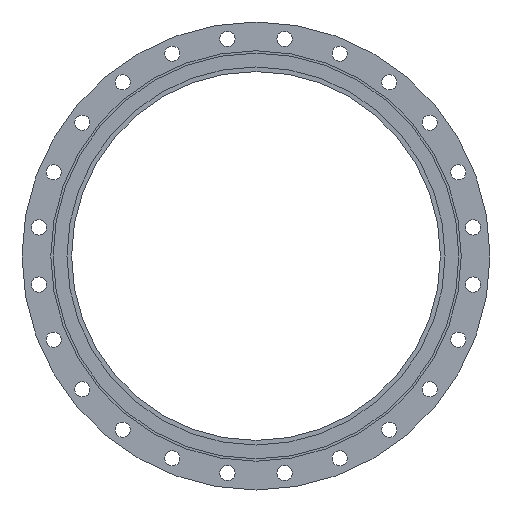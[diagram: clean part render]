
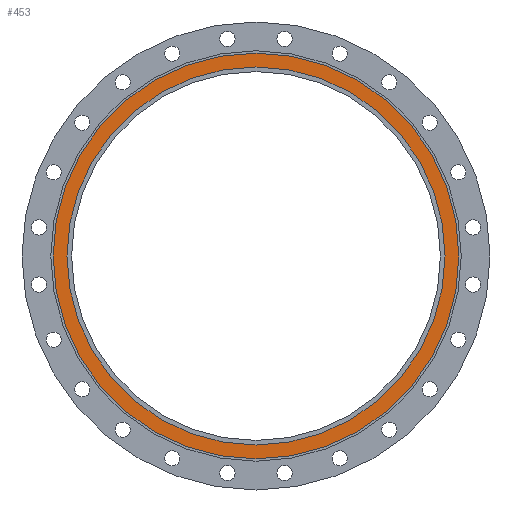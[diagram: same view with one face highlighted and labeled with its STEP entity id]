
A CAD part, left-side view. The second image highlights one B-rep face of the part: STEP entity #453.
In plain terms, the highlighted planar face has unit normal (-1, 0, 0).
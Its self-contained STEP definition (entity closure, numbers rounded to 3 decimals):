
#453=ADVANCED_FACE('',(#8644,#8646),#8648,.T.);
#8644=FACE_BOUND('',#8645,.T.);
#8645=EDGE_LOOP('',(#15764,#15765));
#8646=FACE_BOUND('',#8647,.T.);
#8647=EDGE_LOOP('',(#15766,#15767));
#8648=PLANE('',#8649);
#8649=AXIS2_PLACEMENT_3D('',#8650,#8651,#8652);
#8650=CARTESIAN_POINT('',(-502.001,626.627,0.));
#8651=DIRECTION('',(-1.,0.,0.));
#8652=DIRECTION('',(0.,0.,1.));
#15764=ORIENTED_EDGE('',*,*,#20857,.F.);
#15765=ORIENTED_EDGE('',*,*,#20858,.F.);
#15766=ORIENTED_EDGE('',*,*,#20855,.T.);
#15767=ORIENTED_EDGE('',*,*,#20856,.T.);
#20855=EDGE_CURVE('',#24333,#24334,#24335,.T.);
#20856=EDGE_CURVE('',#24334,#24333,#24336,.T.);
#20857=EDGE_CURVE('',#24337,#24338,#24339,.T.);
#20858=EDGE_CURVE('',#24338,#24337,#24340,.T.);
#24333=VERTEX_POINT('',#32703);
#24334=VERTEX_POINT('',#32704);
#24335=CIRCLE('',#32705,410.);
#24336=CIRCLE('',#32709,410.);
#24337=VERTEX_POINT('',#32713);
#24338=VERTEX_POINT('',#32714);
#24339=CIRCLE('',#32715,440.);
#24340=CIRCLE('',#32719,440.);
#32703=CARTESIAN_POINT('',(-502.001,656.627,0.));
#32704=CARTESIAN_POINT('',(-502.001,1476.627,0.));
#32705=AXIS2_PLACEMENT_3D('',#32706,#32707,#32708);
#32706=CARTESIAN_POINT('',(-502.001,1066.627,0.));
#32707=DIRECTION('',(1.,0.,0.));
#32708=DIRECTION('',(0.,-1.,0.));
#32709=AXIS2_PLACEMENT_3D('',#32710,#32711,#32712);
#32710=CARTESIAN_POINT('',(-502.001,1066.627,0.));
#32711=DIRECTION('',(1.,0.,0.));
#32712=DIRECTION('',(0.,1.,0.));
#32713=CARTESIAN_POINT('',(-502.001,1506.627,0.));
#32714=CARTESIAN_POINT('',(-502.001,626.627,0.));
#32715=AXIS2_PLACEMENT_3D('',#32716,#32717,#32718);
#32716=CARTESIAN_POINT('',(-502.001,1066.627,0.));
#32717=DIRECTION('',(1.,0.,0.));
#32718=DIRECTION('',(0.,1.,0.));
#32719=AXIS2_PLACEMENT_3D('',#32720,#32721,#32722);
#32720=CARTESIAN_POINT('',(-502.001,1066.627,0.));
#32721=DIRECTION('',(1.,0.,0.));
#32722=DIRECTION('',(0.,-1.,0.));
